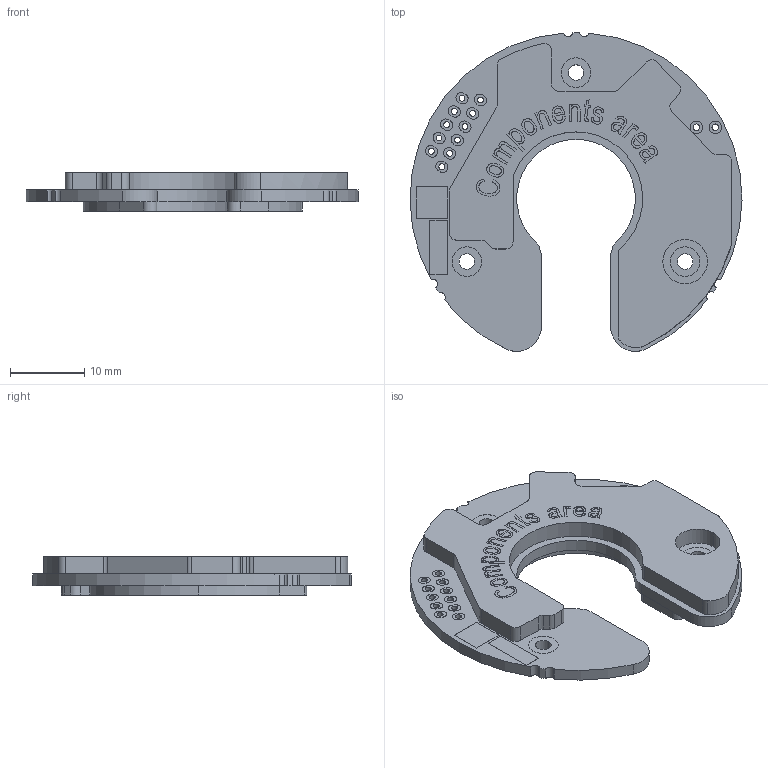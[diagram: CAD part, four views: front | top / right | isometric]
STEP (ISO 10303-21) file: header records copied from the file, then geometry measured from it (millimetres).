
FILE_DESCRIPTION (( 'STEP AP214' ), '1' );
FILE_NAME ('BR10_brez_konektorja_UVW.STEP', '2024-02-23T10:54:13', ( '' ), ( '' ), 'SwSTEP 2.0', 'SolidWorks 2022', '' );
FILE_SCHEMA (( 'AUTOMOTIVE_DESIGN' ));
Length unit declared in the file: millimetre
Products named in the file (1): BR10_brez_konektorja_UVW
Bounding box: 44.8 x 43.01 x 5.14 mm (x, y, z)
Volume: 3878.2 mm3; surface area: 3454.1 mm2
Topology: 1 solids, 1 shells, 725 faces, 1930 edges, 1286 vertices
Faces by surface type: plane 307, bspline 240, cylinder 178
Entity records: 42979 total; most frequent: CARTESIAN_POINT 18230, ORIENTED_EDGE 3860, DIRECTION 2782, EDGE_CURVE 1930, VERTEX_POINT 1286, VECTOR 1090, LINE 1090, AXIS2_PLACEMENT_3D 846
